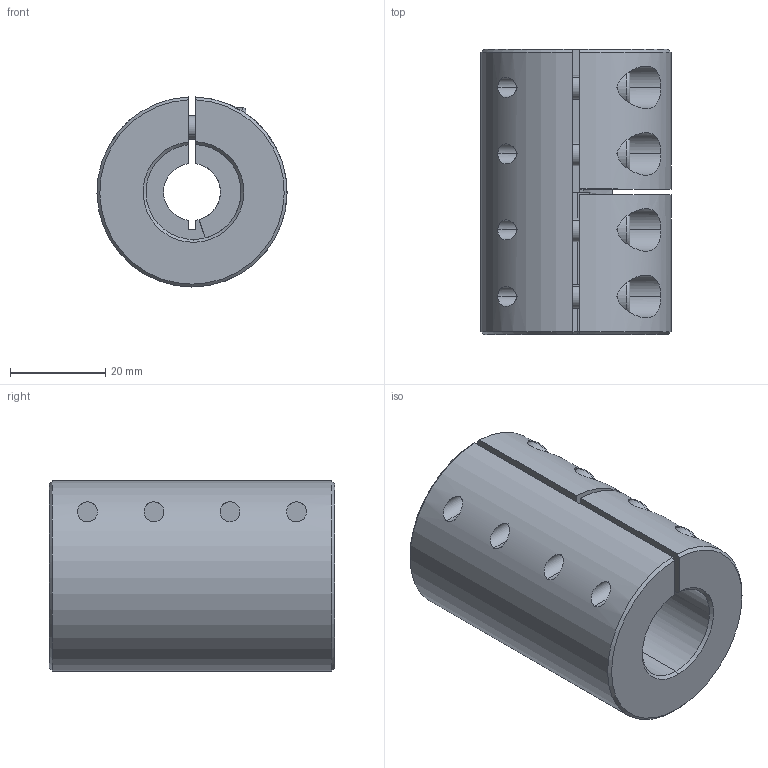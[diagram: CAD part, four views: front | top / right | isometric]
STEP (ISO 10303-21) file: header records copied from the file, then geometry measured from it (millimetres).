
FILE_DESCRIPTION (( 'STEP AP214' ), '1' );
FILE_NAME ('LL-B-D40L60-12-20½¨Ä£.STEP', '2022-07-22T01:00:16', ( '' ), ( '' ), 'SwSTEP 2.0', 'SolidWorks 2022', '' );
FILE_SCHEMA (( 'AUTOMOTIVE_DESIGN' ));
Length unit declared in the file: millimetre
Products named in the file (1): LL-B-D40L60-12-20膘耀
Bounding box: 40 x 60 x 39.99 mm (x, y, z)
Volume: 59384.3 mm3; surface area: 17450.8 mm2
Topology: 1 solids, 1 shells, 181 faces, 459 edges, 288 vertices
Faces by surface type: plane 87, cylinder 71, cone 15, torus 8
Entity records: 5971 total; most frequent: CARTESIAN_POINT 1511, DIRECTION 967, ORIENTED_EDGE 902, EDGE_CURVE 451, AXIS2_PLACEMENT_3D 376, VERTEX_POINT 288, VECTOR 215, LINE 215
